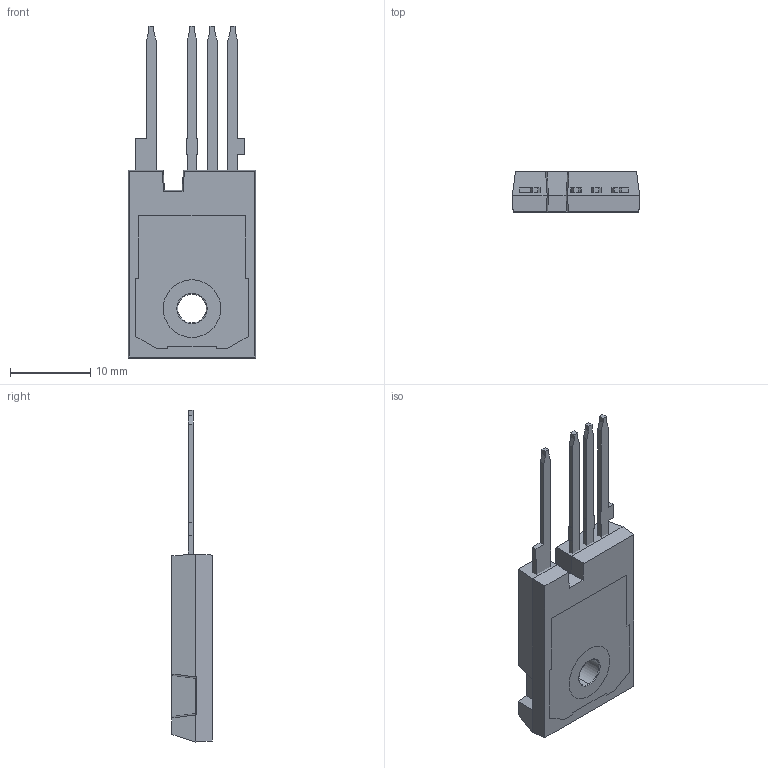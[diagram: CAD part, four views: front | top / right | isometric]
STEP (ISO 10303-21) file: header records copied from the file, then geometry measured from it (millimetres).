
FILE_DESCRIPTION (( 'STEP AP214' ), '1' );
FILE_NAME ('TO-247-4L.STEP', '2022-07-20T12:48:14', ( '' ), ( '' ), 'SwSTEP 2.0', 'SolidWorks 2021', '' );
FILE_SCHEMA (( 'AUTOMOTIVE_DESIGN' ));
Length unit declared in the file: millimetre
Products named in the file (3): TO-247-4L_LF; TO-247-4L_EMC; TO-247-4L
Assembly tree (2 placements, depth 2):
  TO-247-4L
    TO-247-4L_LF
    TO-247-4L_EMC
Bounding box: 15.94 x 5.02 x 41.44 mm (x, y, z)
Volume: 2150.8 mm3; surface area: 2116.1 mm2
Topology: 5 solids, 5 shells, 171 faces, 438 edges, 281 vertices
Faces by surface type: plane 154, cylinder 13, cone 2, torus 2
Entity records: 5203 total; most frequent: CARTESIAN_POINT 895, ORIENTED_EDGE 876, DIRECTION 820, EDGE_CURVE 438, VECTOR 408, LINE 408, VERTEX_POINT 281, AXIS2_PLACEMENT_3D 206
